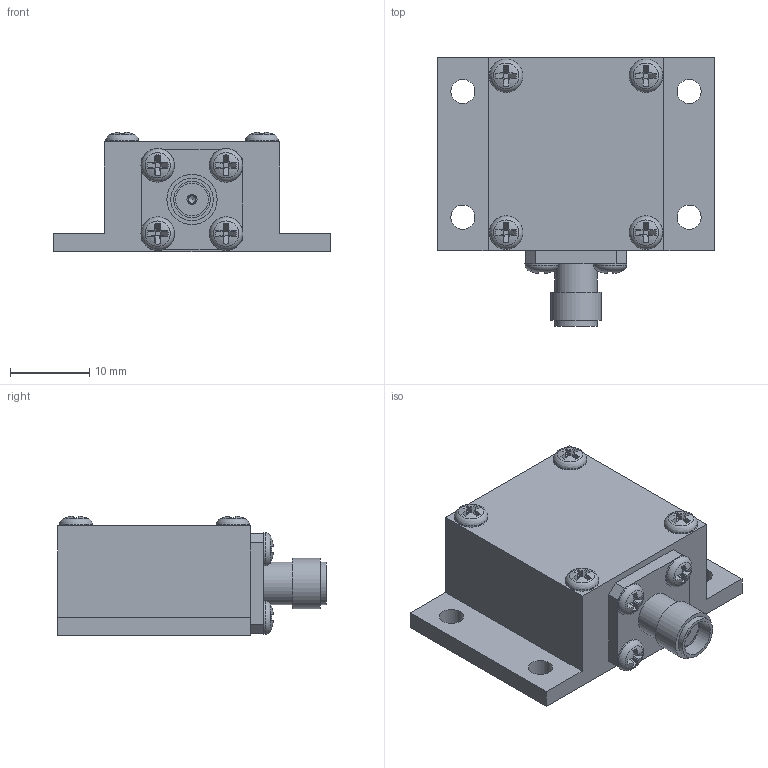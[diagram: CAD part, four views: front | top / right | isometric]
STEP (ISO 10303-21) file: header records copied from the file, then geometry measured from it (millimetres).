
FILE_DESCRIPTION(/* description */ ('Housing'),/* implementation_level */ '2;1');
FILE_NAME(/* name */ '100-CT-FA_STEP',/* time_stamp */ '2018-09-18T08:14:17-04:00',/* author */ ('Tom Smith'),/* organization */ ('Bird Technologies'),/* preprocessor_version */ 'ST-DEVELOPER v16.7',/* originating_system */ 'DEX',/* authorisation */ $);
FILE_SCHEMA (('AUTOMOTIVE_DESIGN {1 0 10303 214 3 1 1}'));
Length unit declared in the file: inch
Products named in the file (1): 100-CT-FA
Bounding box: 34.92 x 33.91 x 15.1 mm (x, y, z)
Volume: 6892.2 mm3; surface area: 5128.4 mm2
Topology: 2 solids, 17 shells, 345 faces, 872 edges, 565 vertices
Faces by surface type: plane 204, cylinder 82, cone 43, sphere 8, torus 8
Full cylindrical faces by diameter (mm): 0.914 x1, 1.27 x2, 1.694 x8, 2.184 x16, 2.388 x4, 2.591 x4, 3.048 x4, 4.115 x2, 4.216 x1, 4.597 x1, 5.385 x2, 6.35 x1
Entity records: 11913 total; most frequent: DIRECTION 1734, CARTESIAN_POINT 1699, ORIENTED_EDGE 1424, AXIS2_PLACEMENT_3D 718, EDGE_CURVE 712, VERTEX_POINT 513, FACE_BOUND 483, EDGE_LOOP 476
